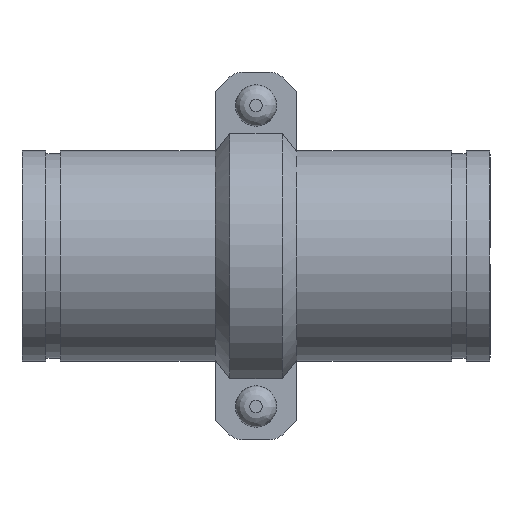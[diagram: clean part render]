
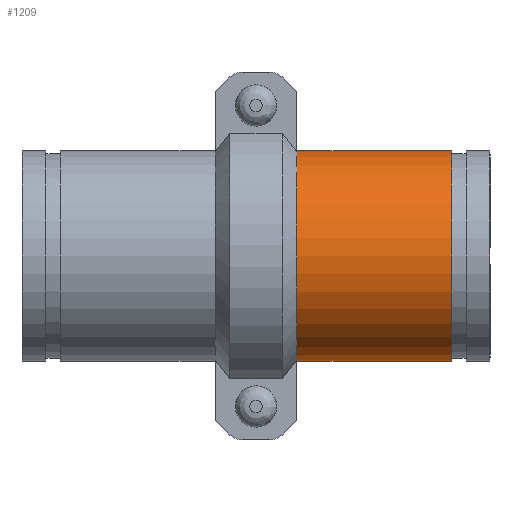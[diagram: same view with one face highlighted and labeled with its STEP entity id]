
A CAD part, front view. The second image highlights one B-rep face of the part: STEP entity #1209.
In plain terms, the highlighted cylindrical face has radius 69.85 mm (diameter 139.7 mm), a full revolution.
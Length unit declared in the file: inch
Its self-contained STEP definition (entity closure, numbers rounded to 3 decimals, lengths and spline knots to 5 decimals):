
#48=LINE('',#1920,#135);
#135=VECTOR('',#1561,2.75);
#222=CYLINDRICAL_SURFACE('',#1386,2.75);
#267=FACE_OUTER_BOUND('',#340,.T.);
#340=EDGE_LOOP('',(#797,#798,#799,#800,#801,#802));
#432=CIRCLE('',#1384,2.75);
#433=CIRCLE('',#1385,2.75);
#434=CIRCLE('',#1387,2.75);
#435=CIRCLE('',#1388,2.75);
#500=VERTEX_POINT('',#1911);
#501=VERTEX_POINT('',#1912);
#502=VERTEX_POINT('',#1916);
#503=VERTEX_POINT('',#1917);
#617=EDGE_CURVE('',#500,#501,#432,.T.);
#618=EDGE_CURVE('',#501,#500,#433,.T.);
#619=EDGE_CURVE('',#502,#503,#434,.T.);
#620=EDGE_CURVE('',#503,#502,#435,.T.);
#621=EDGE_CURVE('',#503,#501,#48,.T.);
#797=ORIENTED_EDGE('',*,*,#619,.F.);
#798=ORIENTED_EDGE('',*,*,#620,.F.);
#799=ORIENTED_EDGE('',*,*,#621,.T.);
#800=ORIENTED_EDGE('',*,*,#618,.T.);
#801=ORIENTED_EDGE('',*,*,#617,.T.);
#802=ORIENTED_EDGE('',*,*,#621,.F.);
#1209=ADVANCED_FACE('',(#267),#222,.T.);
#1384=AXIS2_PLACEMENT_3D('',#1913,#1551,#1552);
#1385=AXIS2_PLACEMENT_3D('',#1914,#1553,#1554);
#1386=AXIS2_PLACEMENT_3D('',#1915,#1555,#1556);
#1387=AXIS2_PLACEMENT_3D('',#1918,#1557,#1558);
#1388=AXIS2_PLACEMENT_3D('',#1919,#1559,#1560);
#1551=DIRECTION('center_axis',(-1.,0.,0.));
#1552=DIRECTION('ref_axis',(0.,0.,1.));
#1553=DIRECTION('center_axis',(-1.,0.,0.));
#1554=DIRECTION('ref_axis',(0.,0.,1.));
#1555=DIRECTION('center_axis',(-1.,0.,0.));
#1556=DIRECTION('ref_axis',(0.,1.,0.));
#1557=DIRECTION('center_axis',(-1.,0.,0.));
#1558=DIRECTION('ref_axis',(0.,0.,1.));
#1559=DIRECTION('center_axis',(-1.,0.,0.));
#1560=DIRECTION('ref_axis',(0.,0.,1.));
#1561=DIRECTION('',(1.,0.,0.));
#1911=CARTESIAN_POINT('',(2.0225,2.75,0.));
#1912=CARTESIAN_POINT('',(2.0225,-2.75,0.));
#1913=CARTESIAN_POINT('Origin',(2.0225,0.,0.));
#1914=CARTESIAN_POINT('Origin',(2.0225,0.,0.));
#1915=CARTESIAN_POINT('Origin',(0.,0.,
0.));
#1916=CARTESIAN_POINT('',(-2.0225,2.75,0.));
#1917=CARTESIAN_POINT('',(-2.0225,-2.75,0.));
#1918=CARTESIAN_POINT('Origin',(-2.0225,0.,0.));
#1919=CARTESIAN_POINT('Origin',(-2.0225,0.,0.));
#1920=CARTESIAN_POINT('',(0.,-2.75,0.));
